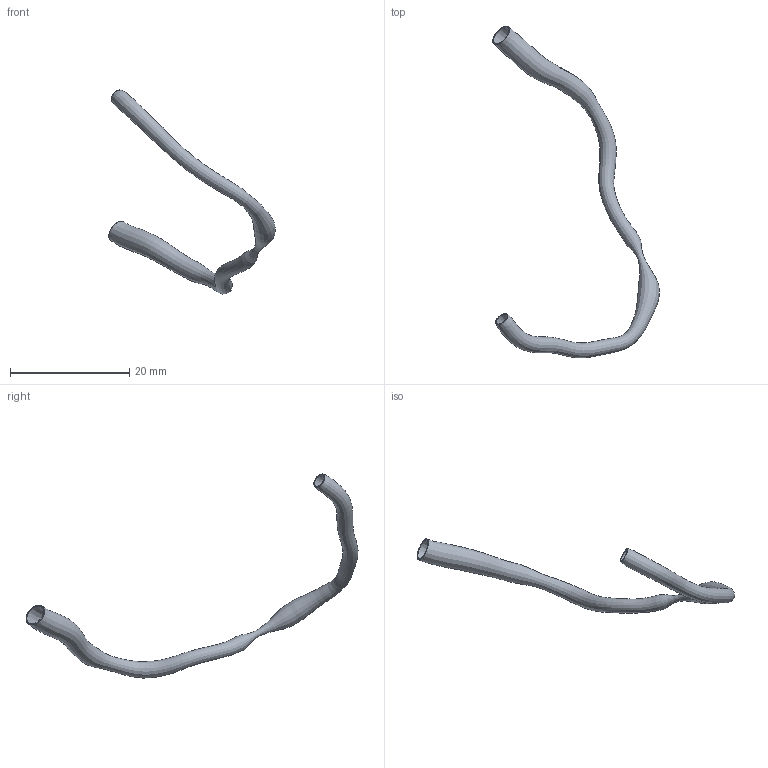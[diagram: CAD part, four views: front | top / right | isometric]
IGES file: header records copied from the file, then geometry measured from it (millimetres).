
Global section: file name: C:\Documents and Settings\Administrator\Desktop\FDA Bifurcation win\RawData_for_IGES\HRCA_Data\20010926.103228\IGES\20010926.103228.RCA.SEG.ED.igs; native system: Rhinoceros ( May 19 2006 ); preprocessor: Trout Lake IGES 012 May 19 2006; date: 100728.212643; units: centimetre
Bounding box: 27.97 x 55.75 x 34.26 mm (x, y, z)
Surface area: 1608.3 mm2 (no closed solid volume)
Topology: 0 solids, 0 shells, 4 faces, 12 edges, 8 vertices
Faces by surface type: bspline 4
